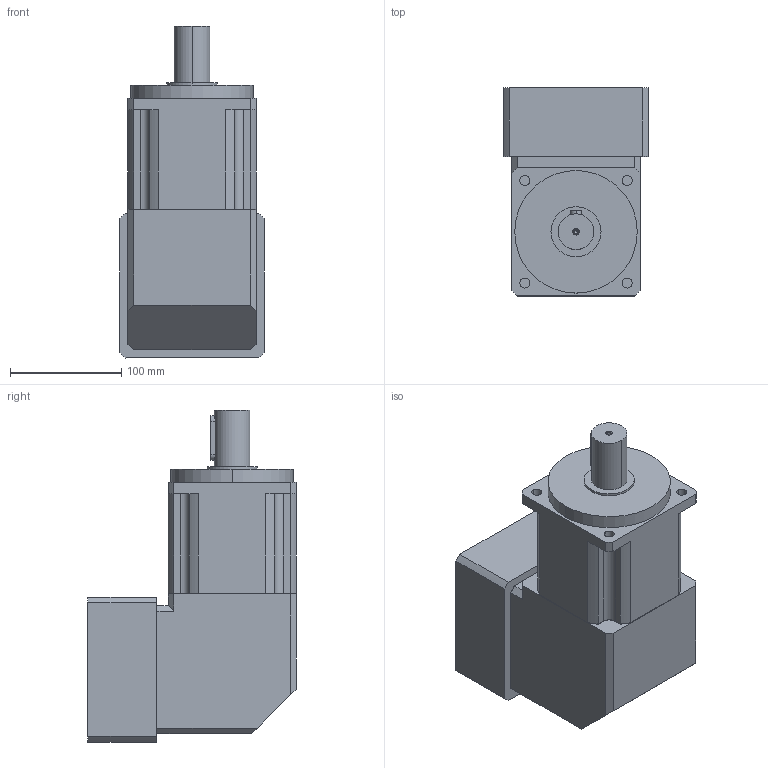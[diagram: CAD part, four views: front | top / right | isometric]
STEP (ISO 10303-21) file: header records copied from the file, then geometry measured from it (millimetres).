
FILE_DESCRIPTION (( 'STEP AP203' ), '1' );
FILE_NAME ('IBR115L2-i-P2-S2-24-58-110-145-M8.STEP', '2016-01-04T13:06:49', ( 'User' ), ( 'china' ), 'SwSTEP 2.0', 'SolidWorks 2014', '' );
FILE_SCHEMA (( 'CONFIG_CONTROL_DESIGN' ));
Length unit declared in the file: millimetre
Products named in the file (1): IBR115L2-i-P2-S2-24-58-110-145-M8
Bounding box: 130 x 187 x 298 mm (x, y, z)
Volume: 4009608.3 mm3; surface area: 185943.1 mm2
Topology: 1 solids, 1 shells, 157 faces, 384 edges, 236 vertices
Faces by surface type: cylinder 81, plane 52, cone 12, bspline 12
Entity records: 5445 total; most frequent: CARTESIAN_POINT 1738, DIRECTION 757, ORIENTED_EDGE 748, EDGE_CURVE 374, AXIS2_PLACEMENT_3D 277, VERTEX_POINT 236, VECTOR 203, LINE 203
